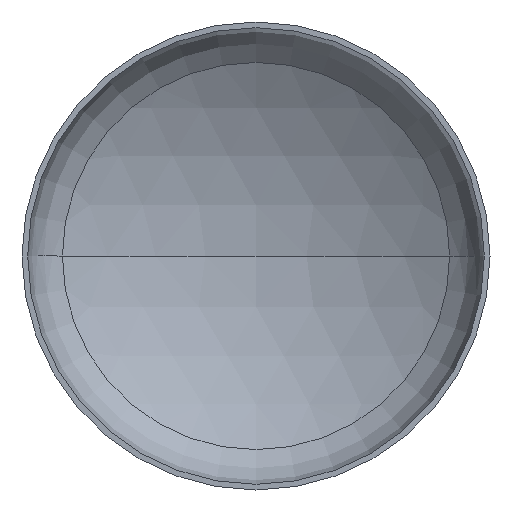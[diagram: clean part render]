
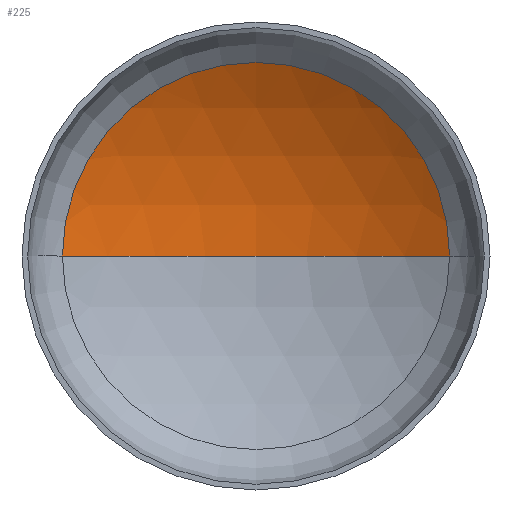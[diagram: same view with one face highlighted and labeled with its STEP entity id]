
A CAD part, front view. The second image highlights one B-rep face of the part: STEP entity #225.
In plain terms, the highlighted spherical face has radius 1120 mm.
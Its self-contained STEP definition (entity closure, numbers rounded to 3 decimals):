
#2 = DIRECTION ( 'NONE',  ( 0., 0., -1. ) ) ;
#13 = EDGE_LOOP ( 'NONE', ( #46, #62, #21 ) ) ;
#21 = ORIENTED_EDGE ( 'NONE', *, *, #121, .T. ) ;
#36 = AXIS2_PLACEMENT_3D ( 'NONE', #226, #266, #274 ) ;
#46 = ORIENTED_EDGE ( 'NONE', *, *, #128, .F. ) ;
#51 = AXIS2_PLACEMENT_3D ( 'NONE', #273, #306, #165 ) ;
#55 = AXIS2_PLACEMENT_3D ( 'NONE', #389, #2, #204 ) ;
#57 = VERTEX_POINT ( 'NONE', #269 ) ;
#60 = AXIS2_PLACEMENT_3D ( 'NONE', #136, #411, #276 ) ;
#62 = ORIENTED_EDGE ( 'NONE', *, *, #122, .T. ) ;
#108 = VERTEX_POINT ( 'NONE', #208 ) ;
#117 = VERTEX_POINT ( 'NONE', #301 ) ;
#121 = EDGE_CURVE ( 'NONE', #57, #117, #210, .T. ) ;
#122 = EDGE_CURVE ( 'NONE', #108, #57, #383, .T. ) ;
#128 = EDGE_CURVE ( 'NONE', #108, #117, #203, .T. ) ;
#136 = CARTESIAN_POINT ( 'NONE',  ( 0., 239.02, 0. ) ) ;
#165 = DIRECTION ( 'NONE',  ( 1., 0., 0. ) ) ;
#203 = CIRCLE ( 'NONE', #51, 1120. ) ;
#204 = DIRECTION ( 'NONE',  ( -1., 0., 0. ) ) ;
#208 = CARTESIAN_POINT ( 'NONE',  ( 0., 400.403, 0. ) ) ;
#210 = CIRCLE ( 'NONE', #60, 579.182 ) ;
#225 = ADVANCED_FACE ( 'NONE', ( #369 ), #253, .F. ) ;
#226 = CARTESIAN_POINT ( 'NONE',  ( 0., -719.597, 0. ) ) ;
#253 = SPHERICAL_SURFACE ( 'NONE', #36, 1120. ) ;
#266 = DIRECTION ( 'NONE',  ( 0., 0., -1. ) ) ;
#269 = CARTESIAN_POINT ( 'NONE',  ( 579.182, 239.02, 0. ) ) ;
#273 = CARTESIAN_POINT ( 'NONE',  ( 0., -719.597, 0. ) ) ;
#274 = DIRECTION ( 'NONE',  ( -1., 0., 0. ) ) ;
#276 = DIRECTION ( 'NONE',  ( 1., 0., 0. ) ) ;
#301 = CARTESIAN_POINT ( 'NONE',  ( -579.182, 239.02, 0. ) ) ;
#306 = DIRECTION ( 'NONE',  ( 0., 0., 1. ) ) ;
#369 = FACE_OUTER_BOUND ( 'NONE', #13, .T. ) ;
#383 = CIRCLE ( 'NONE', #55, 1120. ) ;
#389 = CARTESIAN_POINT ( 'NONE',  ( 0., -719.597, 0. ) ) ;
#411 = DIRECTION ( 'NONE',  ( 0., -1., 0. ) ) ;
